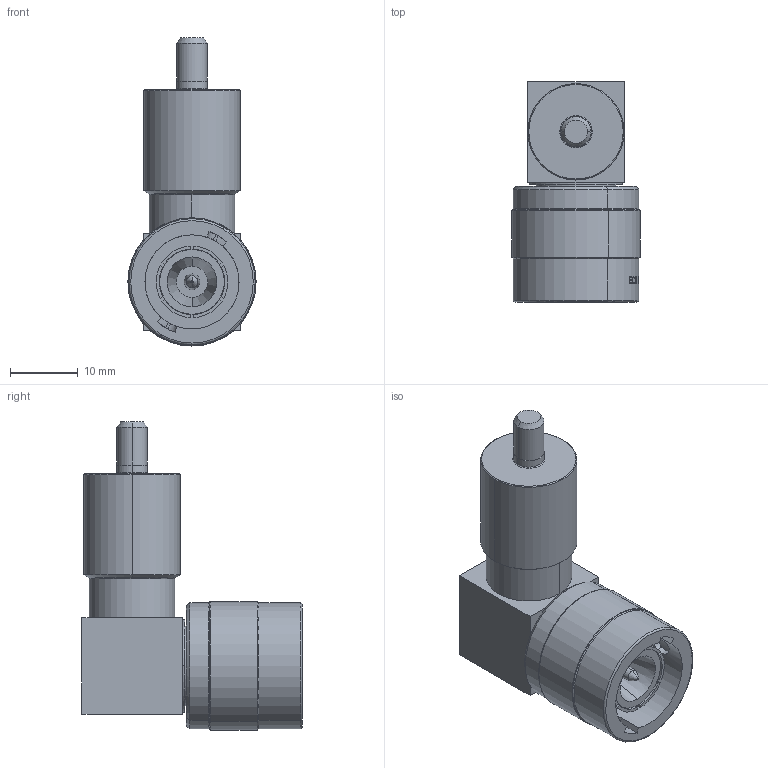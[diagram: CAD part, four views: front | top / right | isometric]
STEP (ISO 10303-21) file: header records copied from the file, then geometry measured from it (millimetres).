
FILE_DESCRIPTION((''),'2;1');
FILE_NAME('CCR3522','2019-12-02T16:39:13',('paul.nurczyk'),('Carlisle Interconnect Technologies'),'CREO PARAMETRIC BY PTC INC, 2017260','CREO PARAMETRIC BY PTC INC, 2017260','');
FILE_SCHEMA(('CONFIG_CONTROL_DESIGN'));
Length unit declared in the file: inch
Products named in the file (1): CCR3522
Bounding box: 18.9 x 32.41 x 45.38 mm (x, y, z)
Volume: 9966.6 mm3; surface area: 5058 mm2
Topology: 1 solids, 12 shells, 133 faces, 649 edges, 545 vertices
Faces by surface type: cylinder 49, plane 38, cone 20, bspline 18, torus 8
Entity records: 7870 total; most frequent: CARTESIAN_POINT 3244, ORIENTED_EDGE 929, DIRECTION 757, EDGE_CURVE 649, VERTEX_POINT 545, B_SPLINE_CURVE_WITH_KNOTS 298, AXIS2_PLACEMENT_3D 290, VECTOR 177
